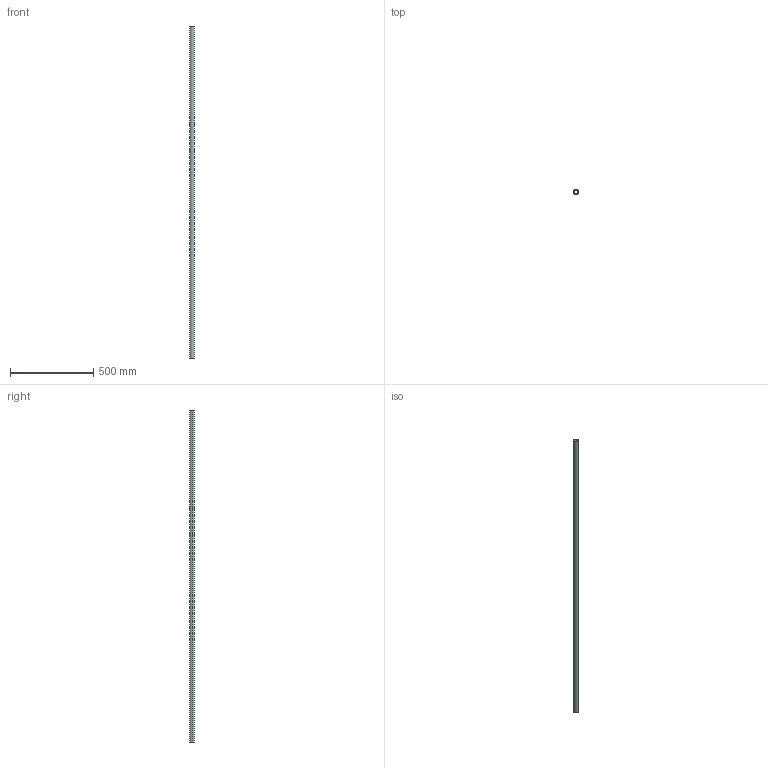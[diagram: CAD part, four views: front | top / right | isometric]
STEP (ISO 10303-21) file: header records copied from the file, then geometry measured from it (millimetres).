
FILE_DESCRIPTION (( 'STEP AP214' ), '1' );
FILE_NAME ('PCT30-2000.STEP', '2022-12-13T01:34:07', ( '' ), ( '' ), 'SwSTEP 2.0', 'SolidWorks 2018', '' );
FILE_SCHEMA (( 'AUTOMOTIVE_DESIGN' ));
Length unit declared in the file: millimetre
Products named in the file (1): PCT30-2000
Bounding box: 30 x 30 x 2000 mm (x, y, z)
Volume: 268606.2 mm3; surface area: 358410.2 mm2
Topology: 1 solids, 1 shells, 6 faces, 12 edges, 8 vertices
Faces by surface type: cylinder 4, plane 2
Entity records: 202 total; most frequent: DIRECTION 34, CARTESIAN_POINT 27, ORIENTED_EDGE 24, AXIS2_PLACEMENT_3D 15, EDGE_CURVE 12, EDGE_LOOP 8, CIRCLE 8, VERTEX_POINT 8
